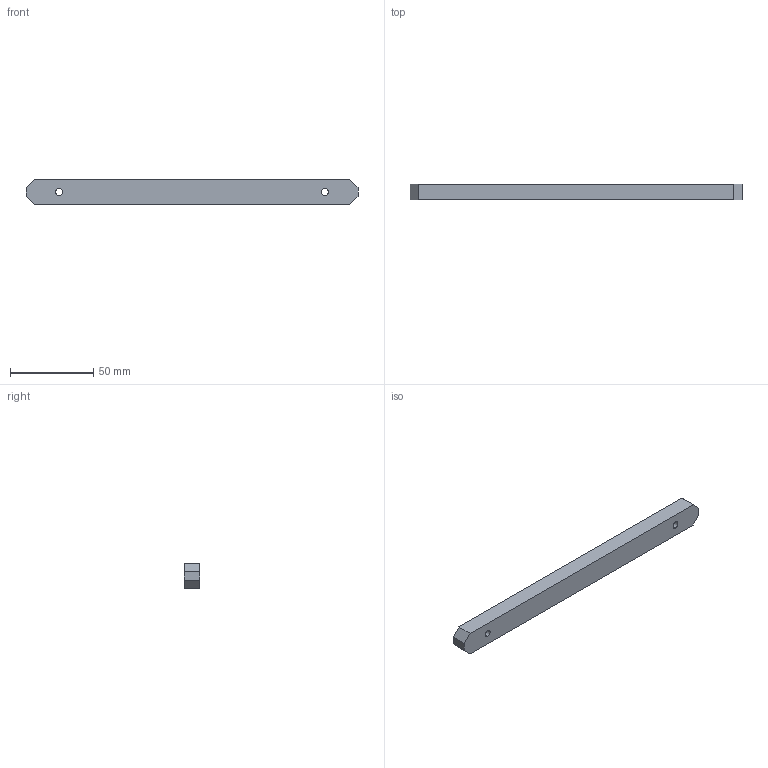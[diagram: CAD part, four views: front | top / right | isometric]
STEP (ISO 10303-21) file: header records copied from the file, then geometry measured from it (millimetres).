
FILE_DESCRIPTION (( 'STEP AP203' ), '1' );
FILE_NAME ('arm3.STEP', '2017-06-25T11:35:36', ( '' ), ( '' ), 'SwSTEP 2.0', 'SolidWorks 2016', '' );
FILE_SCHEMA (( 'CONFIG_CONTROL_DESIGN' ));
Length unit declared in the file: millimetre
Products named in the file (1): arm3
Bounding box: 200 x 9.5 x 15 mm (x, y, z)
Volume: 26490 mm3; surface area: 10358 mm2
Topology: 1 solids, 1 shells, 20 faces, 48 edges, 32 vertices
Faces by surface type: plane 12, cylinder 8
Entity records: 673 total; most frequent: DIRECTION 106, CARTESIAN_POINT 101, ORIENTED_EDGE 96, EDGE_CURVE 48, AXIS2_PLACEMENT_3D 37, VECTOR 32, VERTEX_POINT 32, LINE 32
